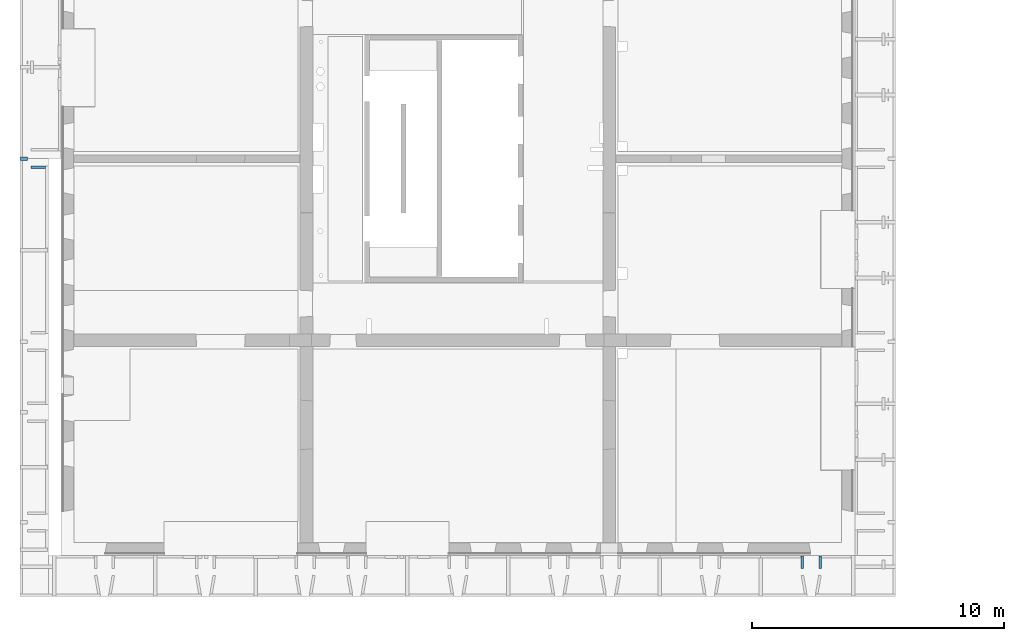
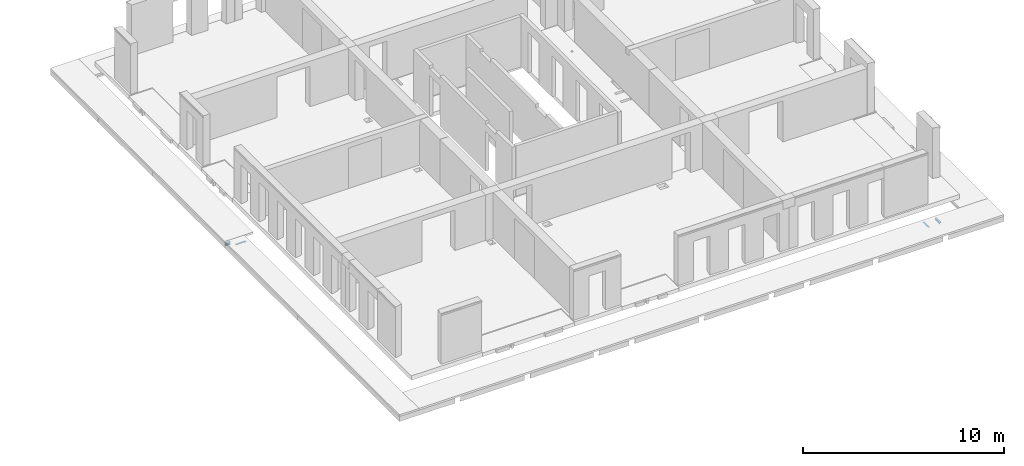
# One storey, part 14 of 27: 4 beams.
"""IFC2X3 building model written with IfcOpenShell, lengths in millimetres."""

from ifc_helpers import new_model, entity, si_unit, converted_unit, derived_unit, direction, frame, frame_2d, origin, place, context, subcontext, project, spatial, polyline, circle_curve, parameter, trimmed, segment, composite_curve, i_section, outline, extrude, material, type_object, element, save


model = new_model("IFC2X3")

# Units and contexts
model_context = context("Model", 3, precision=0.01, world=origin(), true_north=direction((6.12303176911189e-17, 1.0)))
body_context = subcontext(model_context, "Body", "Model", "MODEL_VIEW")
ifc_project = project(units=[si_unit("LENGTHUNIT", "METRE", prefix="MILLI"), si_unit("AREAUNIT", "SQUARE_METRE"), si_unit("VOLUMEUNIT", "CUBIC_METRE"), converted_unit("PLANEANGLEUNIT", "DEGREE", entity("IfcRatioMeasure", 0.0174532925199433), si_unit("PLANEANGLEUNIT", "RADIAN"), dimensions=[0, 0, 0, 0, 0, 0, 0]), si_unit("MASSUNIT", "GRAM", prefix="KILO"), derived_unit("MASSDENSITYUNIT", [(si_unit("MASSUNIT", "GRAM", prefix="KILO"), 1), (si_unit("LENGTHUNIT", "METRE"), -3)]), si_unit("TIMEUNIT", "SECOND"), si_unit("FREQUENCYUNIT", "HERTZ"), si_unit("THERMODYNAMICTEMPERATUREUNIT", "DEGREE_CELSIUS"), derived_unit("THERMALTRANSMITTANCEUNIT", [(si_unit("MASSUNIT", "GRAM", prefix="KILO"), 1), (si_unit("THERMODYNAMICTEMPERATUREUNIT", "KELVIN"), -1), (si_unit("TIMEUNIT", "SECOND"), -3)]), derived_unit("VOLUMETRICFLOWRATEUNIT", [(si_unit("LENGTHUNIT", "METRE"), 3), (si_unit("TIMEUNIT", "SECOND"), -1)]), si_unit("ELECTRICCURRENTUNIT", "AMPERE"), si_unit("ELECTRICVOLTAGEUNIT", "VOLT"), si_unit("POWERUNIT", "WATT"), si_unit("FORCEUNIT", "NEWTON", prefix="KILO"), si_unit("ILLUMINANCEUNIT", "LUX"), si_unit("LUMINOUSFLUXUNIT", "LUMEN"), si_unit("LUMINOUSINTENSITYUNIT", "CANDELA"), derived_unit("USERDEFINED", [(si_unit("MASSUNIT", "GRAM", prefix="KILO"), -1), (si_unit("LENGTHUNIT", "METRE"), -2), (si_unit("TIMEUNIT", "SECOND"), 3), (si_unit("LUMINOUSFLUXUNIT", "LUMEN"), 1)]), derived_unit("LINEARVELOCITYUNIT", [(si_unit("LENGTHUNIT", "METRE"), 1), (si_unit("TIMEUNIT", "SECOND"), -1)]), si_unit("PRESSUREUNIT", "PASCAL"), derived_unit("USERDEFINED", [(si_unit("LENGTHUNIT", "METRE"), -2), (si_unit("MASSUNIT", "GRAM", prefix="KILO"), 1), (si_unit("TIMEUNIT", "SECOND"), -2)])], contexts=[model_context])

# Site, building, storey
site_placement = place(None, origin())
site = spatial("IfcSite", under=ifc_project, at=site_placement, Name="Default", CompositionType="ELEMENT")
building_placement = place(site_placement, origin())
building = spatial("IfcBuilding", under=site, at=building_placement, Name="niet gebruiken", CompositionType="ELEMENT")
storey_placement = place(building_placement, frame((0.0, 0.0, 18000.0)))
storey = spatial("IfcBuildingStorey", under=building, at=storey_placement, Name="05 vijfde verdieping", CompositionType="ELEMENT", Elevation=18000.0)

# Beams
ifc_material = material(Name="NLRS_h2_staal")
beam_type_1 = type_object("IfcBeamType", Name="NLRS_28.11_SF_WPB_stalen ligger HEA_gen:ligger HEA 140", PredefinedType="BEAM")
beam_1_placement = place(storey_placement, frame((124700.0, 17500.0, -1015.0), z_axis=(0.0, 0.0, 1.0), x_axis=(-1.0, 0.0, 0.0)))
element("IfcBeam", 1, at=beam_1_placement, inside=storey, type_object=beam_type_1, material=ifc_material, Name="NLRS_28.11_SF_WPB_stalen ligger HEA_gen:ligger HEA 140", ObjectType="NLRS_28.11_SF_WPB_stalen ligger HEA_gen:ligger HEA 140", context=body_context, shape_type="SweptSolid", body=[
    extrude(i_section(OverallWidth=140.000000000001, OverallDepth=133.0, WebThickness=5.49999999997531, FlangeThickness=8.49999999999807, FilletRadius=11.9999999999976, at=frame_2d((-4.33431068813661e-12, 2.16715534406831e-12), x_axis=(0.0, 1.0))), frame((0.0, 0.0, -66.5000000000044), z_axis=(1.0, 0.0, 0.0), x_axis=(0.0, 0.0, -1.0)), (0.0, 0.0, 1.0), 289.999999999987),
])
beam_type_2 = type_object("IfcBeamType", Name="NLRS_28.11_SF_WPB_stalen ligger hoekprofiel gelijkzijdig_gen:ligger gelijzijdig hoekprofiel LEQU_100x100x10", PredefinedType="BEAM")
beam_2_placement = place(storey_placement, frame((125919.845824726, 17199.7542352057, -1015.0), z_axis=(0.0, 0.0, 1.0), x_axis=(-1.0, 0.0, 0.0)))
element("IfcBeam", 2, at=beam_2_placement, inside=storey, type_object=beam_type_2, material=ifc_material, Name="NLRS_28.11_SF_WPB_stalen ligger hoekprofiel gelijkzijdig_gen:ligger gelijzijdig hoekprofiel LEQU_100x100x10", ObjectType="NLRS_28.11_SF_WPB_stalen ligger hoekprofiel gelijkzijdig_gen:ligger gelijzijdig hoekprofiel LEQU_100x100x10", context=body_context, shape_type="SweptSolid", body=[
    extrude(outline(composite_curve([segment(polyline([(-37.7777777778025, -37.7777777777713), (62.2222222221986, -37.7777777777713)]), True, "CONTINUOUS"), segment(polyline([(62.2222222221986, -37.7777777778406), (62.2222222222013, -33.7777777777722)]), True, "CONTINUOUS"), segment(trimmed(circle_curve(frame_2d((56.2222222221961, -33.7777777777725), x_axis=(1.0, 0.0)), 6.00000000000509), [parameter(0.0)], [parameter(89.9999999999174)], True, "PARAMETER"), True, "CONTINUOUS"), segment(polyline([(56.2222222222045, -27.7777777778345), (-15.7777777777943, -27.777777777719)]), True, "CONTINUOUS"), segment(trimmed(circle_curve(frame_2d((-15.7777777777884, -15.7777777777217), x_axis=(0.0, -1.0)), 11.9999999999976), [parameter(269.999999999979)], [parameter(0.0)], True, "PARAMETER"), False, "CONTINUOUS"), segment(polyline([(-27.7777777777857, -15.7777777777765), (-27.7777777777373, 56.2222222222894)]), True, "CONTINUOUS"), segment(trimmed(circle_curve(frame_2d((-33.7777777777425, 56.2222222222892), x_axis=(1.0, 0.0)), 6.00000000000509), [parameter(0.0)], [parameter(89.9999999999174)], True, "PARAMETER"), True, "CONTINUOUS"), segment(polyline([(-33.7777777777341, 62.222222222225), (-37.7777777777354, 62.2222222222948)]), True, "CONTINUOUS"), segment(polyline([(-37.7777777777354, 62.2222222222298), (-37.7777777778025, -37.7777777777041)]), True, "CONTINUOUS")], self_intersect=False)), frame((512.700000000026, 37.7777777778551, -37.7777777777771), z_axis=(1.0, 0.0, 0.0), x_axis=(0.0, 0.0, -1.0)), (0.0, 0.0, 1.0), 577.145824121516),
])
beam_3_placement = place(storey_placement, frame((155350.0, 1234.0, -1015.0), z_axis=(0.0, 0.0, 1.0), x_axis=(0.0, 1.0, 0.0)))
element("IfcBeam", 3, at=beam_3_placement, inside=storey, type_object=beam_type_2, material=ifc_material, Name="NLRS_28.11_SF_WPB_stalen ligger hoekprofiel gelijkzijdig_gen:ligger gelijzijdig hoekprofiel LEQU_100x100x10", ObjectType="NLRS_28.11_SF_WPB_stalen ligger hoekprofiel gelijkzijdig_gen:ligger gelijzijdig hoekprofiel LEQU_100x100x10", context=body_context, shape_type="SweptSolid", body=[
    extrude(outline(composite_curve([segment(polyline([(-37.7777777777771, -37.777777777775), (62.222222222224, -37.777777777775)]), True, "CONTINUOUS"), segment(polyline([(62.2222222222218, -37.777777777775), (62.2222222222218, -33.7777777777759)]), True, "CONTINUOUS"), segment(trimmed(circle_curve(frame_2d((56.2222222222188, -33.7777777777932), x_axis=(1.0, 0.0)), 6.00000000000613), [parameter(0.0)], [parameter(89.9999999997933)], True, "PARAMETER"), True, "CONTINUOUS"), segment(polyline([(56.2222222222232, -27.7777777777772), (-15.7777777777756, -27.7777777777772)]), True, "CONTINUOUS"), segment(trimmed(circle_curve(frame_2d((-15.77777777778, -15.77777777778), x_axis=(0.0, -1.0)), 11.9999999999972), [parameter(269.99999999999)], [parameter(0.0)], True, "PARAMETER"), False, "CONTINUOUS"), segment(polyline([(-27.7777777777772, -15.77777777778), (-27.7777777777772, 56.222222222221)]), True, "CONTINUOUS"), segment(trimmed(circle_curve(frame_2d((-33.7777777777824, 56.2222222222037), x_axis=(1.0, 0.0)), 6.00000000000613), [parameter(0.0)], [parameter(89.9999999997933)], True, "PARAMETER"), True, "CONTINUOUS"), segment(polyline([(-33.777777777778, 62.2222222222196), (-37.7777777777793, 62.2222222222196)]), True, "CONTINUOUS"), segment(polyline([(-37.7777777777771, 62.2222222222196), (-37.7777777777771, -37.7777777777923)]), True, "CONTINUOUS")], self_intersect=False)), frame((20.0, -62.2222222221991, -37.7777777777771), z_axis=(1.0, 0.0, 0.0), x_axis=(0.0, 0.0, -1.0)), (0.0, 0.0, 1.0), 496.000000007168),
])
beam_4_placement = place(storey_placement, frame((156150.0, 1234.0, -1015.0), z_axis=(0.0, 0.0, 1.0), x_axis=(0.0, 1.0, 0.0)))
element("IfcBeam", 4, at=beam_4_placement, inside=storey, type_object=beam_type_2, material=ifc_material, Name="NLRS_28.11_SF_WPB_stalen ligger hoekprofiel gelijkzijdig_gen:ligger gelijzijdig hoekprofiel LEQU_100x100x10", ObjectType="NLRS_28.11_SF_WPB_stalen ligger hoekprofiel gelijkzijdig_gen:ligger gelijzijdig hoekprofiel LEQU_100x100x10", context=body_context, shape_type="SweptSolid", body=[
    extrude(outline(composite_curve([segment(polyline([(-37.7777777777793, -62.2222222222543), (-33.777777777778, -62.2222222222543)]), True, "CONTINUOUS"), segment(trimmed(circle_curve(frame_2d((-33.7777777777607, -56.2222222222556), x_axis=(0.0, -1.0)), 5.99999999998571), [parameter(0.0)], [parameter(90.0000000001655)], True, "PARAMETER"), True, "CONTINUOUS"), segment(polyline([(-27.7777777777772, -56.222222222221), (-27.7777777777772, 15.7777777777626)]), True, "CONTINUOUS"), segment(trimmed(circle_curve(frame_2d((-15.7777777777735, 15.7777777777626), x_axis=(-1.0, 0.0)), 12.000000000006), [parameter(270.000000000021)], [parameter(0.0)], True, "PARAMETER"), False, "CONTINUOUS"), segment(polyline([(-15.7777777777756, 27.7777777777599), (56.2222222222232, 27.7777777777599)]), True, "CONTINUOUS"), segment(trimmed(circle_curve(frame_2d((56.2222222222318, 33.7777777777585), x_axis=(0.0, -1.0)), 5.99999999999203), [parameter(0.0)], [parameter(90.0000000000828)], True, "PARAMETER"), True, "CONTINUOUS"), segment(polyline([(62.2222222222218, 33.7777777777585), (62.2222222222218, 37.7777777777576)]), True, "CONTINUOUS"), segment(polyline([(62.222222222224, 37.7777777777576), (-37.7777777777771, 37.7777777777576)]), True, "CONTINUOUS"), segment(polyline([(-37.7777777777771, 37.7777777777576), (-37.7777777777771, -62.2222222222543)]), True, "CONTINUOUS")], self_intersect=False)), frame((20.0, 62.2222222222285, -37.7777777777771), z_axis=(1.0, 0.0, 0.0), x_axis=(0.0, 0.0, -1.0)), (0.0, 0.0, 1.0), 495.999999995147),
])

save(model, "model.ifc")
